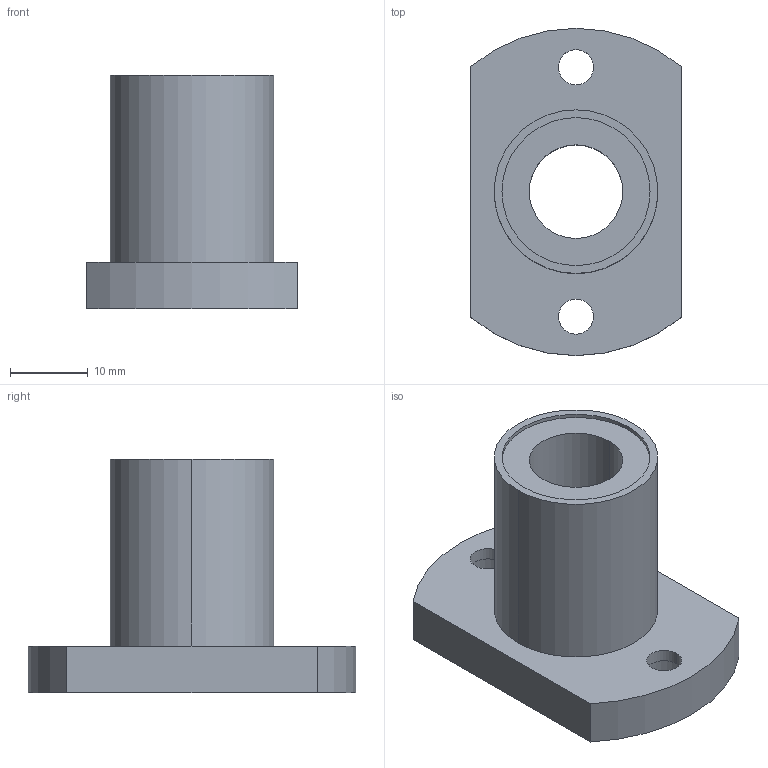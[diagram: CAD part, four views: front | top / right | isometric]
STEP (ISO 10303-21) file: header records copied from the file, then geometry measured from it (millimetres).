
FILE_DESCRIPTION((''),'2;1');
FILE_NAME('C:\Documents and Settings\ｿﾀﾀ蠑ｷ1\ｹﾙﾅﾁ ﾈｭｸ饅\ｺﾎﾇｰﾆﾄﾀﾏ\ﾁｦﾇｰ\LMH__UU\LMH12UU.stp','2005-06-15T10:35:11',('ｿﾀﾀ蠑ｷ1'),(''),'Autodesk Inventor 9','Autodesk Inventor 9','');
FILE_SCHEMA(('AUTOMOTIVE_DESIGN { 1 0 10303 214 1 1 1 1 }'));
Length unit declared in the file: millimetre
Products named in the file (1): LMH__
Bounding box: 27 x 42 x 30 mm (x, y, z)
Volume: 10440.4 mm3; surface area: 5565.3 mm2
Topology: 1 solids, 1 shells, 30 faces, 66 edges, 44 vertices
Faces by surface type: cylinder 12, bspline 10, plane 8
Entity records: 989 total; most frequent: CARTESIAN_POINT 283, DIRECTION 148, ORIENTED_EDGE 132, EDGE_CURVE 66, AXIS2_PLACEMENT_3D 61, VERTEX_POINT 44, EDGE_LOOP 42, CIRCLE 40
